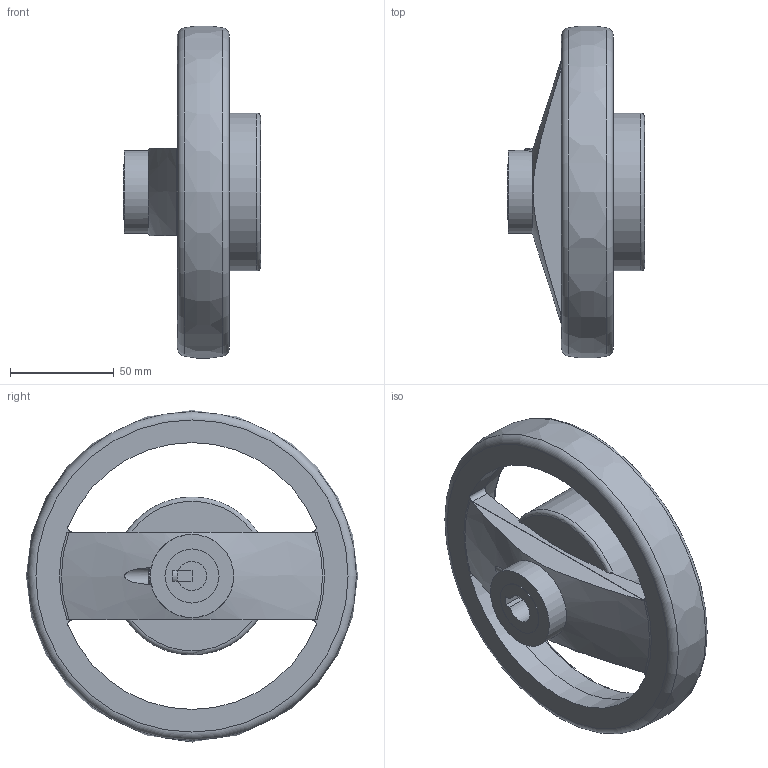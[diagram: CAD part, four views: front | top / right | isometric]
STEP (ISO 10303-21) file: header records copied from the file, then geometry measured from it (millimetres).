
FILE_DESCRIPTION( ( 'STEP AP203' ), '1' );
FILE_NAME( 'C:/Temp/Ganter_Step_05_03_2020/data/1_4/gn_522_8/gn_522_8_k/gn_522_8_k_a/Spoked handwheel GN 522.8-160-K14-A.stp', '2020-03-05T10:53:32', ( 'License CC BY-ND 4.0' ), ( 'CADENAS' ), ' ', 'PARTsolutions', ' ' );
FILE_SCHEMA( ( 'CONFIG_CONTROL_DESIGN' ) );
Length unit declared in the file: millimetre
Products named in the file (1): _Spoked handwheel GN 522.8-160-K14-A
Bounding box: 66 x 159.78 x 159.78 mm (x, y, z)
Volume: 290734.1 mm3; surface area: 72194.3 mm2
Topology: 1 solids, 1 shells, 74 faces, 186 edges, 121 vertices
Faces by surface type: plane 35, cylinder 23, cone 8, torus 7, bspline 1
Full cylindrical faces by diameter (mm): 6 x4, 8 x1, 26 x1, 40 x1, 67 x1, 68.8 x1, 76 x1
Entity records: 2453 total; most frequent: CARTESIAN_POINT 760, DIRECTION 338, ORIENTED_EDGE 312, EDGE_CURVE 156, AXIS2_PLACEMENT_3D 138, EDGE_LOOP 112, VERTEX_POINT 112, FACE_OUTER_BOUND 90
